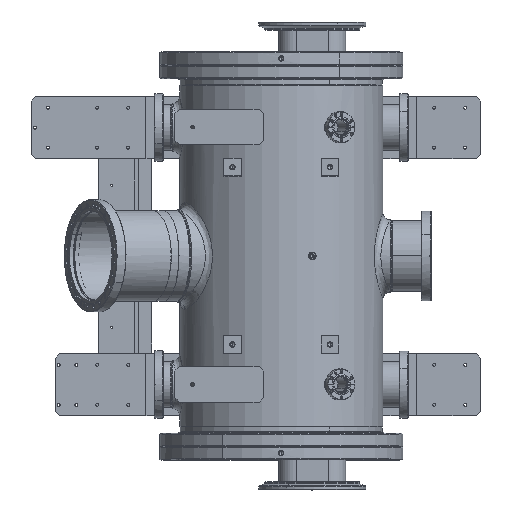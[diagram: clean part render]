
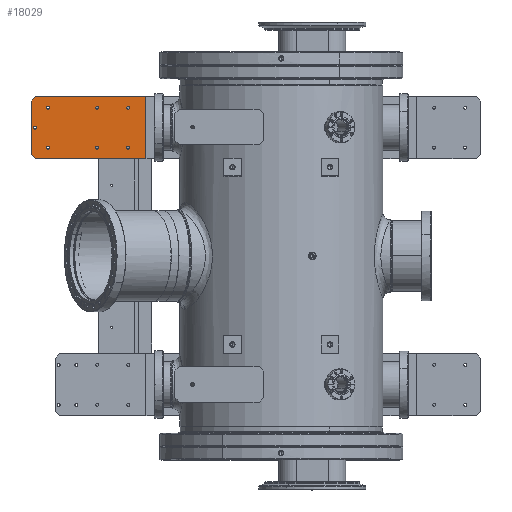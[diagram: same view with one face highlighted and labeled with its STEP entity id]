
A CAD part, top view. The second image highlights one B-rep face of the part: STEP entity #18029.
In plain terms, the highlighted planar face has unit normal (0, 0, 1).
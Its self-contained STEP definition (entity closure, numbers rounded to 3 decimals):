
#17200=AXIS2_PLACEMENT_3D('Circle Axis2P3D',#17198,#17199,$) ;
#17213=AXIS2_PLACEMENT_3D('Circle Axis2P3D',#17211,#17212,$) ;
#17245=AXIS2_PLACEMENT_3D('Circle Axis2P3D',#17243,#17244,$) ;
#17257=AXIS2_PLACEMENT_3D('Circle Axis2P3D',#17255,#17256,$) ;
#17288=AXIS2_PLACEMENT_3D('Circle Axis2P3D',#17286,#17287,$) ;
#17300=AXIS2_PLACEMENT_3D('Circle Axis2P3D',#17298,#17299,$) ;
#17331=AXIS2_PLACEMENT_3D('Circle Axis2P3D',#17329,#17330,$) ;
#17343=AXIS2_PLACEMENT_3D('Circle Axis2P3D',#17341,#17342,$) ;
#17770=AXIS2_PLACEMENT_3D('Circle Axis2P3D',#17768,#17769,$) ;
#17796=AXIS2_PLACEMENT_3D('Circle Axis2P3D',#17794,#17795,$) ;
#17813=AXIS2_PLACEMENT_3D('Circle Axis2P3D',#17811,#17812,$) ;
#17839=AXIS2_PLACEMENT_3D('Circle Axis2P3D',#17837,#17838,$) ;
#17856=AXIS2_PLACEMENT_3D('Circle Axis2P3D',#17854,#17855,$) ;
#17883=AXIS2_PLACEMENT_3D('Circle Axis2P3D',#17881,#17882,$) ;
#17986=AXIS2_PLACEMENT_3D('Plane Axis2P3D',#17983,#17984,#17985) ;
#16604=CARTESIAN_POINT('Vertex',(86.9,-70.,16.)) ;
#16618=CARTESIAN_POINT('Vertex',(86.9,70.,16.)) ;
#16621=CARTESIAN_POINT('Line Origine',(86.9,0.,16.)) ;
#17085=CARTESIAN_POINT('Vertex',(-161.9,70.,16.)) ;
#17088=CARTESIAN_POINT('Line Origine',(-37.5,70.,16.)) ;
#17188=CARTESIAN_POINT('Vertex',(46.9,48.324,16.)) ;
#17195=CARTESIAN_POINT('Vertex',(46.9,41.677,16.)) ;
#17198=CARTESIAN_POINT('Axis2P3D Location',(46.9,45.,16.)) ;
#17211=CARTESIAN_POINT('Axis2P3D Location',(46.9,45.,16.)) ;
#17233=CARTESIAN_POINT('Vertex',(46.9,-48.324,16.)) ;
#17240=CARTESIAN_POINT('Vertex',(46.9,-41.677,16.)) ;
#17243=CARTESIAN_POINT('Axis2P3D Location',(46.9,-45.,16.)) ;
#17255=CARTESIAN_POINT('Axis2P3D Location',(46.9,-45.,16.)) ;
#17276=CARTESIAN_POINT('Vertex',(-23.1,41.677,16.)) ;
#17283=CARTESIAN_POINT('Vertex',(-23.1,48.324,16.)) ;
#17286=CARTESIAN_POINT('Axis2P3D Location',(-23.1,45.,16.)) ;
#17298=CARTESIAN_POINT('Axis2P3D Location',(-23.1,45.,16.)) ;
#17319=CARTESIAN_POINT('Vertex',(-23.1,-48.324,16.)) ;
#17326=CARTESIAN_POINT('Vertex',(-23.1,-41.677,16.)) ;
#17329=CARTESIAN_POINT('Axis2P3D Location',(-23.1,-45.,16.)) ;
#17341=CARTESIAN_POINT('Axis2P3D Location',(-23.1,-45.,16.)) ;
#17768=CARTESIAN_POINT('Axis2P3D Location',(-163.9,0.,16.)) ;
#17772=CARTESIAN_POINT('Vertex',(-167.224,0.,16.)) ;
#17774=CARTESIAN_POINT('Vertex',(-160.577,0.,16.)) ;
#17794=CARTESIAN_POINT('Axis2P3D Location',(-163.9,0.,16.)) ;
#17811=CARTESIAN_POINT('Axis2P3D Location',(-133.9,-45.,16.)) ;
#17815=CARTESIAN_POINT('Vertex',(-137.224,-45.,16.)) ;
#17817=CARTESIAN_POINT('Vertex',(-130.577,-45.,16.)) ;
#17837=CARTESIAN_POINT('Axis2P3D Location',(-133.9,-45.,16.)) ;
#17854=CARTESIAN_POINT('Axis2P3D Location',(-133.9,45.,16.)) ;
#17858=CARTESIAN_POINT('Vertex',(-130.577,45.,16.)) ;
#17860=CARTESIAN_POINT('Vertex',(-137.224,45.,16.)) ;
#17881=CARTESIAN_POINT('Axis2P3D Location',(-133.9,45.,16.)) ;
#17903=CARTESIAN_POINT('Vertex',(-171.9,-60.,16.)) ;
#17906=CARTESIAN_POINT('Line Origine',(-171.9,0.,16.)) ;
#17910=CARTESIAN_POINT('Vertex',(-171.9,60.,16.)) ;
#17930=CARTESIAN_POINT('Line Origine',(-166.9,65.,16.)) ;
#17951=CARTESIAN_POINT('Vertex',(-161.9,-70.,16.)) ;
#17954=CARTESIAN_POINT('Line Origine',(-166.9,-65.,16.)) ;
#17983=CARTESIAN_POINT('Axis2P3D Location',(0.,0.,16.)) ;
#17988=CARTESIAN_POINT('Line Origine',(-37.5,-70.,16.)) ;
#16622=DIRECTION('Vector Direction',(0.,-1.,0.)) ;
#17089=DIRECTION('Vector Direction',(-1.,0.,0.)) ;
#17199=DIRECTION('Axis2P3D Direction',(0.,0.,-1.)) ;
#17212=DIRECTION('Axis2P3D Direction',(0.,0.,-1.)) ;
#17244=DIRECTION('Axis2P3D Direction',(0.,0.,-1.)) ;
#17256=DIRECTION('Axis2P3D Direction',(0.,0.,-1.)) ;
#17287=DIRECTION('Axis2P3D Direction',(0.,0.,-1.)) ;
#17299=DIRECTION('Axis2P3D Direction',(0.,0.,-1.)) ;
#17330=DIRECTION('Axis2P3D Direction',(0.,0.,-1.)) ;
#17342=DIRECTION('Axis2P3D Direction',(0.,0.,-1.)) ;
#17769=DIRECTION('Axis2P3D Direction',(0.,-0.,-1.)) ;
#17795=DIRECTION('Axis2P3D Direction',(0.,-0.,-1.)) ;
#17812=DIRECTION('Axis2P3D Direction',(0.,-0.,-1.)) ;
#17838=DIRECTION('Axis2P3D Direction',(0.,-0.,-1.)) ;
#17855=DIRECTION('Axis2P3D Direction',(0.,-0.,-1.)) ;
#17882=DIRECTION('Axis2P3D Direction',(0.,-0.,-1.)) ;
#17907=DIRECTION('Vector Direction',(0.,1.,0.)) ;
#17931=DIRECTION('Vector Direction',(0.707,0.707,0.)) ;
#17955=DIRECTION('Vector Direction',(0.707,-0.707,0.)) ;
#17984=DIRECTION('Axis2P3D Direction',(0.,-0.,1.)) ;
#17985=DIRECTION('Axis2P3D XDirection',(0.,1.,0.)) ;
#17989=DIRECTION('Vector Direction',(1.,0.,0.)) ;
#16623=VECTOR('Line Direction',#16622,1.) ;
#17090=VECTOR('Line Direction',#17089,1.) ;
#17908=VECTOR('Line Direction',#17907,1.) ;
#17932=VECTOR('Line Direction',#17931,1.) ;
#17956=VECTOR('Line Direction',#17955,1.) ;
#17990=VECTOR('Line Direction',#17989,1.) ;
#17994=ORIENTED_EDGE('',*,*,#17992,.T.) ;
#17995=ORIENTED_EDGE('',*,*,#16625,.T.) ;
#17996=ORIENTED_EDGE('',*,*,#17092,.T.) ;
#17997=ORIENTED_EDGE('',*,*,#17934,.F.) ;
#17998=ORIENTED_EDGE('',*,*,#17912,.T.) ;
#17999=ORIENTED_EDGE('',*,*,#17958,.F.) ;
#18002=ORIENTED_EDGE('',*,*,#17885,.F.) ;
#18003=ORIENTED_EDGE('',*,*,#17862,.F.) ;
#18006=ORIENTED_EDGE('',*,*,#17202,.F.) ;
#18007=ORIENTED_EDGE('',*,*,#17215,.F.) ;
#18010=ORIENTED_EDGE('',*,*,#17247,.F.) ;
#18011=ORIENTED_EDGE('',*,*,#17259,.F.) ;
#18014=ORIENTED_EDGE('',*,*,#17290,.F.) ;
#18015=ORIENTED_EDGE('',*,*,#17302,.F.) ;
#18018=ORIENTED_EDGE('',*,*,#17333,.F.) ;
#18019=ORIENTED_EDGE('',*,*,#17345,.F.) ;
#18022=ORIENTED_EDGE('',*,*,#17841,.F.) ;
#18023=ORIENTED_EDGE('',*,*,#17819,.F.) ;
#18026=ORIENTED_EDGE('',*,*,#17798,.F.) ;
#18027=ORIENTED_EDGE('',*,*,#17776,.F.) ;
#18004=FACE_BOUND('',#18001,.T.) ;
#18008=FACE_BOUND('',#18005,.T.) ;
#18012=FACE_BOUND('',#18009,.T.) ;
#18016=FACE_BOUND('',#18013,.T.) ;
#18020=FACE_BOUND('',#18017,.T.) ;
#18024=FACE_BOUND('',#18021,.T.) ;
#18028=FACE_BOUND('',#18025,.T.) ;
#18029=ADVANCED_FACE('PartBody',(#18000,#18004,#18008,#18012,#18016,#18020,#18024,#18028),#17987,.T.) ;
#17201=CIRCLE('generated circle',#17200,3.324) ;
#17214=CIRCLE('generated circle',#17213,3.324) ;
#17246=CIRCLE('generated circle',#17245,3.324) ;
#17258=CIRCLE('generated circle',#17257,3.324) ;
#17289=CIRCLE('generated circle',#17288,3.324) ;
#17301=CIRCLE('generated circle',#17300,3.324) ;
#17332=CIRCLE('generated circle',#17331,3.324) ;
#17344=CIRCLE('generated circle',#17343,3.324) ;
#17771=CIRCLE('generated circle',#17770,3.324) ;
#17797=CIRCLE('generated circle',#17796,3.324) ;
#17814=CIRCLE('generated circle',#17813,3.324) ;
#17840=CIRCLE('generated circle',#17839,3.324) ;
#17857=CIRCLE('generated circle',#17856,3.324) ;
#17884=CIRCLE('generated circle',#17883,3.324) ;
#16625=EDGE_CURVE('',#16605,#16619,#16624,.F.) ;
#17092=EDGE_CURVE('',#16619,#17086,#17091,.T.) ;
#17202=EDGE_CURVE('',#17196,#17189,#17201,.F.) ;
#17215=EDGE_CURVE('',#17189,#17196,#17214,.F.) ;
#17247=EDGE_CURVE('',#17241,#17234,#17246,.F.) ;
#17259=EDGE_CURVE('',#17234,#17241,#17258,.F.) ;
#17290=EDGE_CURVE('',#17284,#17277,#17289,.F.) ;
#17302=EDGE_CURVE('',#17277,#17284,#17301,.F.) ;
#17333=EDGE_CURVE('',#17327,#17320,#17332,.F.) ;
#17345=EDGE_CURVE('',#17320,#17327,#17344,.F.) ;
#17776=EDGE_CURVE('',#17773,#17775,#17771,.F.) ;
#17798=EDGE_CURVE('',#17775,#17773,#17797,.F.) ;
#17819=EDGE_CURVE('',#17816,#17818,#17814,.F.) ;
#17841=EDGE_CURVE('',#17818,#17816,#17840,.F.) ;
#17862=EDGE_CURVE('',#17859,#17861,#17857,.F.) ;
#17885=EDGE_CURVE('',#17861,#17859,#17884,.F.) ;
#17912=EDGE_CURVE('',#17911,#17904,#17909,.F.) ;
#17934=EDGE_CURVE('',#17911,#17086,#17933,.T.) ;
#17958=EDGE_CURVE('',#17952,#17904,#17957,.F.) ;
#17992=EDGE_CURVE('',#17952,#16605,#17991,.T.) ;
#17993=EDGE_LOOP('',(#17994,#17995,#17996,#17997,#17998,#17999)) ;
#18001=EDGE_LOOP('',(#18002,#18003)) ;
#18005=EDGE_LOOP('',(#18006,#18007)) ;
#18009=EDGE_LOOP('',(#18010,#18011)) ;
#18013=EDGE_LOOP('',(#18014,#18015)) ;
#18017=EDGE_LOOP('',(#18018,#18019)) ;
#18021=EDGE_LOOP('',(#18022,#18023)) ;
#18025=EDGE_LOOP('',(#18026,#18027)) ;
#18000=FACE_OUTER_BOUND('',#17993,.T.) ;
#16624=LINE('Line',#16621,#16623) ;
#17091=LINE('Line',#17088,#17090) ;
#17909=LINE('Line',#17906,#17908) ;
#17933=LINE('Line',#17930,#17932) ;
#17957=LINE('Line',#17954,#17956) ;
#17991=LINE('Line',#17988,#17990) ;
#17987=PLANE('',#17986) ;
#16605=VERTEX_POINT('',#16604) ;
#16619=VERTEX_POINT('',#16618) ;
#17086=VERTEX_POINT('',#17085) ;
#17189=VERTEX_POINT('',#17188) ;
#17196=VERTEX_POINT('',#17195) ;
#17234=VERTEX_POINT('',#17233) ;
#17241=VERTEX_POINT('',#17240) ;
#17277=VERTEX_POINT('',#17276) ;
#17284=VERTEX_POINT('',#17283) ;
#17320=VERTEX_POINT('',#17319) ;
#17327=VERTEX_POINT('',#17326) ;
#17773=VERTEX_POINT('',#17772) ;
#17775=VERTEX_POINT('',#17774) ;
#17816=VERTEX_POINT('',#17815) ;
#17818=VERTEX_POINT('',#17817) ;
#17859=VERTEX_POINT('',#17858) ;
#17861=VERTEX_POINT('',#17860) ;
#17904=VERTEX_POINT('',#17903) ;
#17911=VERTEX_POINT('',#17910) ;
#17952=VERTEX_POINT('',#17951) ;
